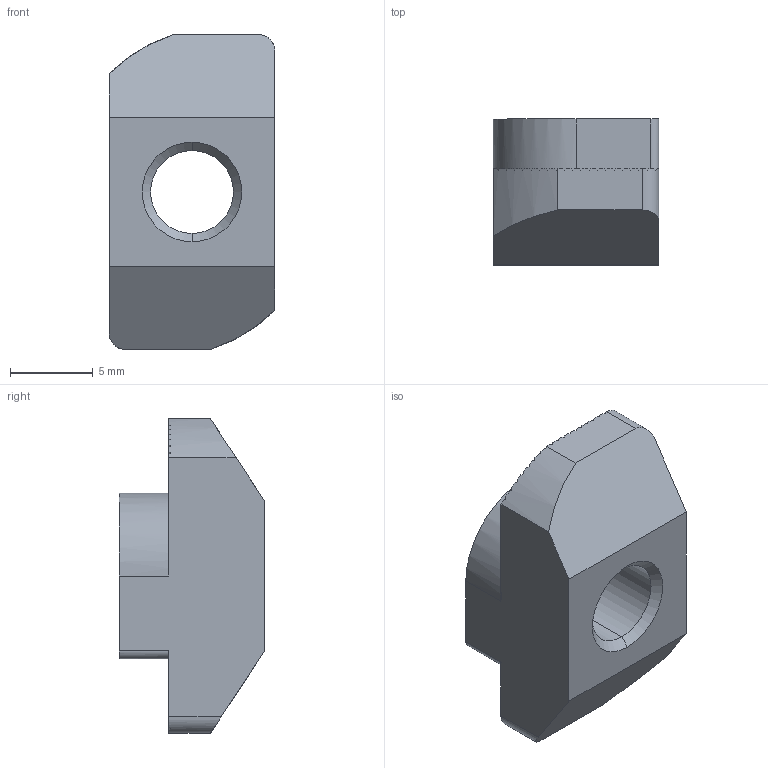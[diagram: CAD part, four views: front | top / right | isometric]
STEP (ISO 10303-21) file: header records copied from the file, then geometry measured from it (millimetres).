
FILE_DESCRIPTION (( 'STEP AP203' ), '1' );
FILE_NAME ('LIMA-RN6-104545.STEP', '2018-03-15T12:25:05', ( '' ), ( '' ), 'SwSTEP 2.0', 'SolidWorks 2013', '' );
FILE_SCHEMA (( 'CONFIG_CONTROL_DESIGN' ));
Length unit declared in the file: millimetre
Products named in the file (1): LIMA-RN6-104545
Bounding box: 10 x 8.8 x 19 mm (x, y, z)
Volume: 995.2 mm3; surface area: 819.9 mm2
Topology: 1 solids, 1 shells, 146 faces, 428 edges, 284 vertices
Faces by surface type: plane 132, cylinder 10, cone 4
Entity records: 4882 total; most frequent: CARTESIAN_POINT 1123, ORIENTED_EDGE 856, DIRECTION 695, EDGE_CURVE 428, VERTEX_POINT 284, VECTOR 279, LINE 279, AXIS2_PLACEMENT_3D 208
